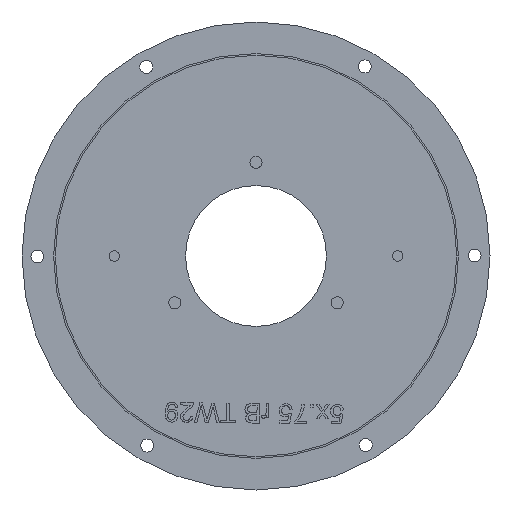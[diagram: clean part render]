
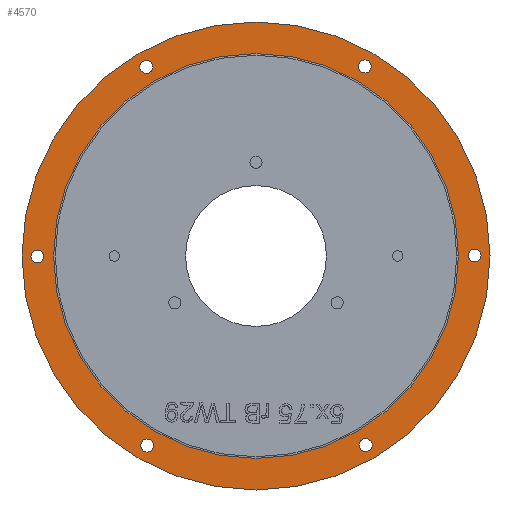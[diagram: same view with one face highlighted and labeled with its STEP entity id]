
A CAD part, front view. The second image highlights one B-rep face of the part: STEP entity #4570.
In plain terms, the highlighted planar face has unit normal (0, -1, 0).
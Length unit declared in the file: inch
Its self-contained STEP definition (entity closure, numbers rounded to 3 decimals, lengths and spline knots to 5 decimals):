
#51=FACE_BOUND('',#1057,.T.);
#52=FACE_BOUND('',#1058,.T.);
#53=FACE_BOUND('',#1059,.T.);
#54=FACE_BOUND('',#1060,.T.);
#55=FACE_BOUND('',#1061,.T.);
#56=FACE_BOUND('',#1062,.T.);
#57=FACE_BOUND('',#1063,.T.);
#527=PLANE('',#4744);
#773=FACE_OUTER_BOUND('',#1056,.T.);
#1056=EDGE_LOOP('',(#4271));
#1057=EDGE_LOOP('',(#4272));
#1058=EDGE_LOOP('',(#4273));
#1059=EDGE_LOOP('',(#4274));
#1060=EDGE_LOOP('',(#4275));
#1061=EDGE_LOOP('',(#4276));
#1062=EDGE_LOOP('',(#4277));
#1063=EDGE_LOOP('',(#4278));
#1830=CIRCLE('',#4696,0.08);
#1842=CIRCLE('',#4712,0.08);
#1845=CIRCLE('',#4718,0.08);
#1848=CIRCLE('',#4724,0.08);
#1851=CIRCLE('',#4730,0.08);
#1854=CIRCLE('',#4736,0.08);
#1857=CIRCLE('',#4742,2.5);
#1859=CIRCLE('',#4745,2.89);
#2277=VERTEX_POINT('',#8809);
#2289=VERTEX_POINT('',#8839);
#2292=VERTEX_POINT('',#8850);
#2295=VERTEX_POINT('',#8861);
#2298=VERTEX_POINT('',#8872);
#2301=VERTEX_POINT('',#8883);
#2305=VERTEX_POINT('',#8895);
#2306=VERTEX_POINT('',#8900);
#2927=EDGE_CURVE('',#2277,#2277,#1830,.T.);
#2941=EDGE_CURVE('',#2289,#2289,#1842,.T.);
#2946=EDGE_CURVE('',#2292,#2292,#1845,.T.);
#2951=EDGE_CURVE('',#2295,#2295,#1848,.T.);
#2956=EDGE_CURVE('',#2298,#2298,#1851,.T.);
#2961=EDGE_CURVE('',#2301,#2301,#1854,.T.);
#2966=EDGE_CURVE('',#2305,#2305,#1857,.T.);
#2968=EDGE_CURVE('',#2306,#2306,#1859,.T.);
#4271=ORIENTED_EDGE('',*,*,#2968,.F.);
#4272=ORIENTED_EDGE('',*,*,#2927,.T.);
#4273=ORIENTED_EDGE('',*,*,#2941,.T.);
#4274=ORIENTED_EDGE('',*,*,#2946,.T.);
#4275=ORIENTED_EDGE('',*,*,#2951,.T.);
#4276=ORIENTED_EDGE('',*,*,#2956,.T.);
#4277=ORIENTED_EDGE('',*,*,#2961,.T.);
#4278=ORIENTED_EDGE('',*,*,#2966,.T.);
#4570=ADVANCED_FACE('',(#773,#51,#52,#53,#54,#55,#56,#57),#527,.T.);
#4696=AXIS2_PLACEMENT_3D('',#8811,#5351,#5352);
#4712=AXIS2_PLACEMENT_3D('',#8841,#5385,#5386);
#4718=AXIS2_PLACEMENT_3D('',#8852,#5399,#5400);
#4724=AXIS2_PLACEMENT_3D('',#8863,#5413,#5414);
#4730=AXIS2_PLACEMENT_3D('',#8874,#5427,#5428);
#4736=AXIS2_PLACEMENT_3D('',#8885,#5441,#5442);
#4742=AXIS2_PLACEMENT_3D('',#8897,#5455,#5456);
#4744=AXIS2_PLACEMENT_3D('',#8899,#5459,#5460);
#4745=AXIS2_PLACEMENT_3D('',#8901,#5461,#5462);
#5351=DIRECTION('center_axis',(0.,1.,0.));
#5352=DIRECTION('ref_axis',(0.5,0.,0.866));
#5385=DIRECTION('center_axis',(0.,1.,0.));
#5386=DIRECTION('ref_axis',(-0.5,0.,0.866));
#5399=DIRECTION('center_axis',(0.,1.,0.));
#5400=DIRECTION('ref_axis',(-1.,0.,0.));
#5413=DIRECTION('center_axis',(0.,1.,0.));
#5414=DIRECTION('ref_axis',(-0.5,0.,-0.866));
#5427=DIRECTION('center_axis',(0.,1.,0.));
#5428=DIRECTION('ref_axis',(0.5,0.,-0.866));
#5441=DIRECTION('center_axis',(0.,1.,0.));
#5442=DIRECTION('ref_axis',(1.,0.,0.));
#5455=DIRECTION('center_axis',(0.,1.,0.));
#5456=DIRECTION('ref_axis',(1.,0.,0.));
#5459=DIRECTION('center_axis',(0.,-1.,0.));
#5460=DIRECTION('ref_axis',(0.,0.,-1.));
#5461=DIRECTION('center_axis',(0.,1.,0.));
#5462=DIRECTION('ref_axis',(-1.,0.,0.));
#8809=CARTESIAN_POINT('',(-1.38475,0.5,-2.41057));
#8811=CARTESIAN_POINT('Origin',(-1.34475,0.5,-2.34129));
#8839=CARTESIAN_POINT('',(1.39524,0.5,-2.40452));
#8841=CARTESIAN_POINT('Origin',(1.35524,0.5,-2.33524));
#8850=CARTESIAN_POINT('',(2.77999,0.5,0.00605));
#8852=CARTESIAN_POINT('Origin',(2.69999,0.5,0.00605));
#8861=CARTESIAN_POINT('',(1.38475,0.5,2.41057));
#8863=CARTESIAN_POINT('Origin',(1.34475,0.5,2.34129));
#8872=CARTESIAN_POINT('',(-1.39524,0.5,2.40452));
#8874=CARTESIAN_POINT('Origin',(-1.35524,0.5,2.33524));
#8883=CARTESIAN_POINT('',(-2.77999,0.5,-0.00605));
#8885=CARTESIAN_POINT('Origin',(-2.69999,0.5,-0.00605));
#8895=CARTESIAN_POINT('',(2.5,0.5,0.));
#8897=CARTESIAN_POINT('Origin',(0.,0.5,
0.));
#8899=CARTESIAN_POINT('Origin',(-2.89,0.5,0.));
#8900=CARTESIAN_POINT('',(2.89,0.5,0.));
#8901=CARTESIAN_POINT('Origin',(0.,0.5,
0.));
